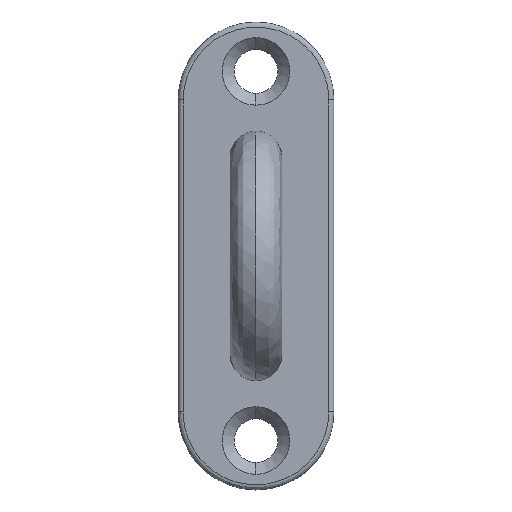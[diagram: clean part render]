
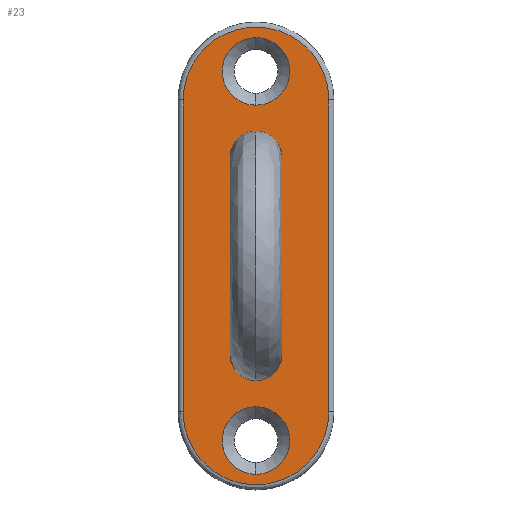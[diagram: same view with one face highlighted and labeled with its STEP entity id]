
A CAD part, top view. The second image highlights one B-rep face of the part: STEP entity #23.
In plain terms, the highlighted planar face has unit normal (0, 0, 1).
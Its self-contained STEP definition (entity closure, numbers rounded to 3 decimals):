
#2 = EDGE_CURVE ( 'NONE', #981, #1002, #1016, .T. ) ;
#5 = EDGE_LOOP ( 'NONE', ( #966, #931 ) ) ;
#7 = ORIENTED_EDGE ( 'NONE', *, *, #100, .F. ) ;
#23 = ADVANCED_FACE ( 'NONE', ( #244, #245, #246, #247, #248 ), #249, .T. ) ;
#26 = VERTEX_POINT ( 'NONE', #262 ) ;
#47 = ORIENTED_EDGE ( 'NONE', *, *, #69, .F. ) ;
#69 = EDGE_CURVE ( 'NONE', #84, #857, #715, .T. ) ;
#81 = ORIENTED_EDGE ( 'NONE', *, *, #589, .F. ) ;
#82 = EDGE_LOOP ( 'NONE', ( #313, #1000 ) ) ;
#84 = VERTEX_POINT ( 'NONE', #1021 ) ;
#86 = VERTEX_POINT ( 'NONE', #1035 ) ;
#90 = EDGE_CURVE ( 'NONE', #590, #940, #1040, .T. ) ;
#100 = EDGE_CURVE ( 'NONE', #940, #84, #164, .T. ) ;
#110 = VERTEX_POINT ( 'NONE', #229 ) ;
#111 = EDGE_CURVE ( 'NONE', #939, #240, #231, .T. ) ;
#164 =( BOUNDED_CURVE ( )  B_SPLINE_CURVE ( 3, ( #167, #168, #169, #170 ),
 .UNSPECIFIED., .F., .T. ) 
 B_SPLINE_CURVE_WITH_KNOTS ( ( 4, 4 ),
 ( 0., 1. ),
 .UNSPECIFIED. ) 
 CURVE ( )  GEOMETRIC_REPRESENTATION_ITEM ( )  RATIONAL_B_SPLINE_CURVE ( ( 1., 0.333, 0.333, 1. ) ) 
 REPRESENTATION_ITEM ( '' )  );
#167 = CARTESIAN_POINT ( 'NONE',  ( -7., 15., 3. ) ) ;
#168 = CARTESIAN_POINT ( 'NONE',  ( -7., 29., 3. ) ) ;
#169 = CARTESIAN_POINT ( 'NONE',  ( 7., 29., 3. ) ) ;
#170 = CARTESIAN_POINT ( 'NONE',  ( 7., 15., 3. ) ) ;
#176 = CIRCLE ( 'NONE', #177, 2.5 ) ;
#177 = AXIS2_PLACEMENT_3D ( 'NONE', #178, #179, #180 ) ;
#178 = CARTESIAN_POINT ( 'NONE',  ( 0., 9.5, 3. ) ) ;
#179 = DIRECTION ( 'NONE',  ( 0., 0., 1. ) ) ;
#180 = DIRECTION ( 'NONE',  ( 1., 0., 0. ) ) ;
#185 = VERTEX_POINT ( 'NONE', #325 ) ;
#229 = CARTESIAN_POINT ( 'NONE',  ( 0., 14.5, 3. ) ) ;
#231 = CIRCLE ( 'NONE', #232, 3.25 ) ;
#232 = AXIS2_PLACEMENT_3D ( 'NONE', #233, #234, #235 ) ;
#233 = CARTESIAN_POINT ( 'NONE',  ( 0., -17.75, 3. ) ) ;
#234 = DIRECTION ( 'NONE',  ( 0., 0., -1. ) ) ;
#235 = DIRECTION ( 'NONE',  ( 0., -1., 0. ) ) ;
#240 = VERTEX_POINT ( 'NONE', #392 ) ;
#244 = FACE_BOUND ( 'NONE', #5, .T. ) ;
#245 = FACE_BOUND ( 'NONE', #909, .T. ) ;
#246 = FACE_BOUND ( 'NONE', #82, .T. ) ;
#247 = FACE_BOUND ( 'NONE', #952, .T. ) ;
#248 = FACE_OUTER_BOUND ( 'NONE', #274, .T. ) ;
#249 = PLANE ( 'NONE',  #250 ) ;
#250 = AXIS2_PLACEMENT_3D ( 'NONE', #251, #252, #253 ) ;
#251 = CARTESIAN_POINT ( 'NONE',  ( -7.28, -22.882, 3. ) ) ;
#252 = DIRECTION ( 'NONE',  ( 0., 0., 1. ) ) ;
#253 = DIRECTION ( 'NONE',  ( 1., 0., 0. ) ) ;
#262 = CARTESIAN_POINT ( 'NONE',  ( 2.5, -9.5, 3. ) ) ;
#274 = EDGE_LOOP ( 'NONE', ( #81, #47, #7, #479 ) ) ;
#313 = ORIENTED_EDGE ( 'NONE', *, *, #316, .T. ) ;
#316 = EDGE_CURVE ( 'NONE', #110, #86, #430, .T. ) ;
#323 = CARTESIAN_POINT ( 'NONE',  ( 0., -14.5, 3. ) ) ;
#325 = CARTESIAN_POINT ( 'NONE',  ( -2.5, -9.5, 3. ) ) ;
#332 = CARTESIAN_POINT ( 'NONE',  ( -7., 15., 3. ) ) ;
#392 = CARTESIAN_POINT ( 'NONE',  ( 0., -21., 3. ) ) ;
#430 = CIRCLE ( 'NONE', #431, 3.25 ) ;
#431 = AXIS2_PLACEMENT_3D ( 'NONE', #432, #433, #434 ) ;
#432 = CARTESIAN_POINT ( 'NONE',  ( 0., 17.75, 3. ) ) ;
#433 = DIRECTION ( 'NONE',  ( 0., 0., -1. ) ) ;
#434 = DIRECTION ( 'NONE',  ( 0., -1., 0. ) ) ;
#460 = EDGE_CURVE ( 'NONE', #240, #939, #527, .T. ) ;
#461 = ORIENTED_EDGE ( 'NONE', *, *, #111, .T. ) ;
#479 = ORIENTED_EDGE ( 'NONE', *, *, #90, .F. ) ;
#514 = ORIENTED_EDGE ( 'NONE', *, *, #646, .F. ) ;
#527 = CIRCLE ( 'NONE', #528, 3.25 ) ;
#528 = AXIS2_PLACEMENT_3D ( 'NONE', #529, #530, #531 ) ;
#529 = CARTESIAN_POINT ( 'NONE',  ( 0., -17.75, 3. ) ) ;
#530 = DIRECTION ( 'NONE',  ( 0., 0., -1. ) ) ;
#531 = DIRECTION ( 'NONE',  ( 0., -1., 0. ) ) ;
#589 = EDGE_CURVE ( 'NONE', #857, #590, #634, .T. ) ;
#590 = VERTEX_POINT ( 'NONE', #639 ) ;
#627 = EDGE_CURVE ( 'NONE', #185, #26, #659, .T. ) ;
#634 =( BOUNDED_CURVE ( )  B_SPLINE_CURVE ( 3, ( #635, #636, #637, #638 ),
 .UNSPECIFIED., .F., .T. ) 
 B_SPLINE_CURVE_WITH_KNOTS ( ( 4, 4 ),
 ( 0., 1. ),
 .UNSPECIFIED. ) 
 CURVE ( )  GEOMETRIC_REPRESENTATION_ITEM ( )  RATIONAL_B_SPLINE_CURVE ( ( 1., 0.333, 0.333, 1. ) ) 
 REPRESENTATION_ITEM ( '' )  );
#635 = CARTESIAN_POINT ( 'NONE',  ( 7., -15., 3. ) ) ;
#636 = CARTESIAN_POINT ( 'NONE',  ( 7., -29., 3. ) ) ;
#637 = CARTESIAN_POINT ( 'NONE',  ( -7., -29., 3. ) ) ;
#638 = CARTESIAN_POINT ( 'NONE',  ( -7., -15., 3. ) ) ;
#639 = CARTESIAN_POINT ( 'NONE',  ( -7., -15., 3. ) ) ;
#640 = CIRCLE ( 'NONE', #641, 3.25 ) ;
#641 = AXIS2_PLACEMENT_3D ( 'NONE', #642, #643, #648 ) ;
#642 = CARTESIAN_POINT ( 'NONE',  ( 0., 17.75, 3. ) ) ;
#643 = DIRECTION ( 'NONE',  ( 0., 0., -1. ) ) ;
#646 = EDGE_CURVE ( 'NONE', #26, #185, #672, .T. ) ;
#648 = DIRECTION ( 'NONE',  ( 0., -1., 0. ) ) ;
#659 = CIRCLE ( 'NONE', #660, 2.5 ) ;
#660 = AXIS2_PLACEMENT_3D ( 'NONE', #661, #662, #663 ) ;
#661 = CARTESIAN_POINT ( 'NONE',  ( 0., -9.5, 3. ) ) ;
#662 = DIRECTION ( 'NONE',  ( 0., 0., 1. ) ) ;
#663 = DIRECTION ( 'NONE',  ( -1., 0., 0. ) ) ;
#672 = CIRCLE ( 'NONE', #673, 2.5 ) ;
#673 = AXIS2_PLACEMENT_3D ( 'NONE', #674, #675, #676 ) ;
#674 = CARTESIAN_POINT ( 'NONE',  ( 0., -9.5, 3. ) ) ;
#675 = DIRECTION ( 'NONE',  ( 0., 0., 1. ) ) ;
#676 = DIRECTION ( 'NONE',  ( -1., 0., 0. ) ) ;
#715 = LINE ( 'NONE', #717, #718 ) ;
#717 = CARTESIAN_POINT ( 'NONE',  ( 7., 0., 3. ) ) ;
#718 = VECTOR ( 'NONE', #719, 1000. ) ;
#719 = DIRECTION ( 'NONE',  ( 0., -1., 0. ) ) ;
#726 = CARTESIAN_POINT ( 'NONE',  ( -2.5, 9.5, 3. ) ) ;
#772 = CARTESIAN_POINT ( 'NONE',  ( 7., -15., 3. ) ) ;
#857 = VERTEX_POINT ( 'NONE', #772 ) ;
#909 = EDGE_LOOP ( 'NONE', ( #920, #461 ) ) ;
#920 = ORIENTED_EDGE ( 'NONE', *, *, #460, .T. ) ;
#923 = ORIENTED_EDGE ( 'NONE', *, *, #627, .F. ) ;
#931 = ORIENTED_EDGE ( 'NONE', *, *, #2, .F. ) ;
#939 = VERTEX_POINT ( 'NONE', #323 ) ;
#940 = VERTEX_POINT ( 'NONE', #332 ) ;
#952 = EDGE_LOOP ( 'NONE', ( #923, #514 ) ) ;
#966 = ORIENTED_EDGE ( 'NONE', *, *, #1009, .F. ) ;
#973 = EDGE_CURVE ( 'NONE', #86, #110, #640, .T. ) ;
#981 = VERTEX_POINT ( 'NONE', #726 ) ;
#1000 = ORIENTED_EDGE ( 'NONE', *, *, #973, .T. ) ;
#1002 = VERTEX_POINT ( 'NONE', #1036 ) ;
#1009 = EDGE_CURVE ( 'NONE', #1002, #981, #176, .T. ) ;
#1016 = CIRCLE ( 'NONE', #1017, 2.5 ) ;
#1017 = AXIS2_PLACEMENT_3D ( 'NONE', #1018, #1019, #1020 ) ;
#1018 = CARTESIAN_POINT ( 'NONE',  ( 0., 9.5, 3. ) ) ;
#1019 = DIRECTION ( 'NONE',  ( 0., 0., 1. ) ) ;
#1020 = DIRECTION ( 'NONE',  ( 1., 0., 0. ) ) ;
#1021 = CARTESIAN_POINT ( 'NONE',  ( 7., 15., 3. ) ) ;
#1035 = CARTESIAN_POINT ( 'NONE',  ( 0., 21., 3. ) ) ;
#1036 = CARTESIAN_POINT ( 'NONE',  ( 2.5, 9.5, 3. ) ) ;
#1040 = LINE ( 'NONE', #1041, #1042 ) ;
#1041 = CARTESIAN_POINT ( 'NONE',  ( -7., 0., 3. ) ) ;
#1042 = VECTOR ( 'NONE', #1043, 1000. ) ;
#1043 = DIRECTION ( 'NONE',  ( 0., 1., 0. ) ) ;
